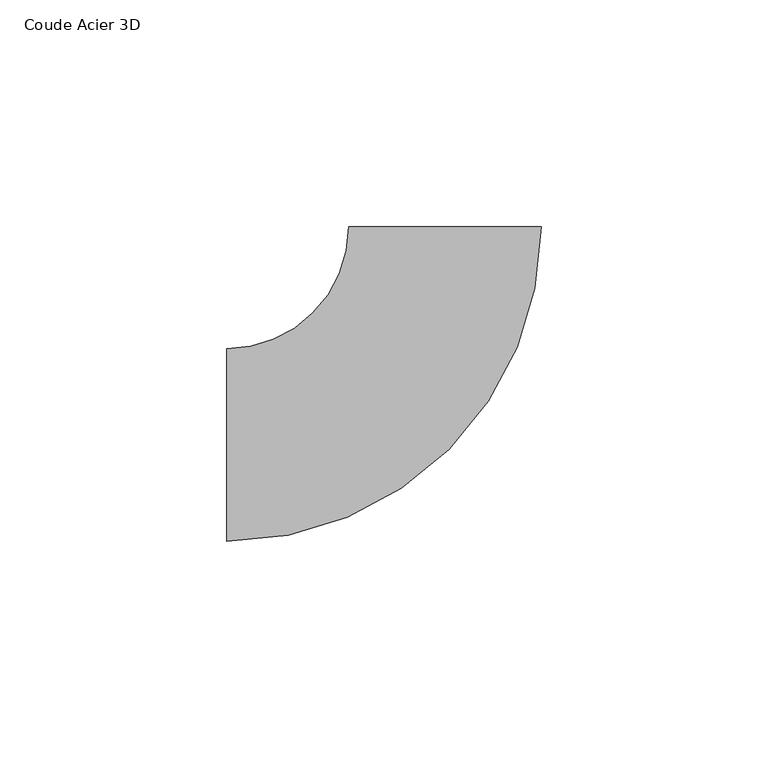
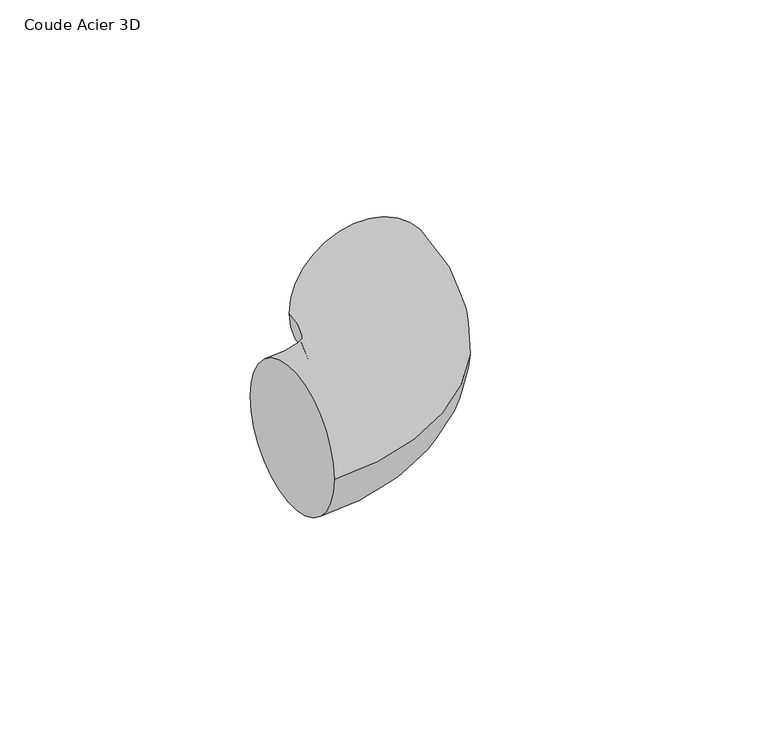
"""IFC4 building model written with IfcOpenShell, lengths in millimetres: pipe fitting geometry, Coude Acier 3D : Courbure = 3D."""

from ifc_helpers import new_model, si_unit, point, frame, origin, place, context, project, spatial, circle_curve, ellipse_curve, trimmed, source, transform, mapped, element, save
from ifc_brep_helpers import plane_surface, revolved_surface, advanced_brep


def coude_acier_3d_b5d1311c(model_context):
    return source(origin(), model_context, "Body", "AdvancedBrep", [
        advanced_brep(
        [(-48.0, -21.2, 0.0), (-48.0, 21.2, 0.0), (21.2, 48.0, 0.0), (-21.2, 48.0, 0.0)],
        [
            (0, 1, circle_curve(frame((-48.0, 0.0, 0.0), z_axis=(-1.0, 0.0, 0.0), x_axis=(0.0, 1.0, 0.0)), 21.2)),
            (1, 0, circle_curve(frame((-48.0, 0.0, 0.0), z_axis=(-1.0, 0.0, 0.0), x_axis=(0.0, 1.0, 0.0)), 21.2)),
            (2, 3, circle_curve(frame((0.0, 48.0, 0.0), z_axis=(0.0, 1.0, 0.0), x_axis=(-1.0, 0.0, 0.0)), 21.2)),
            (3, 2, circle_curve(frame((0.0, 48.0, 0.0), z_axis=(0.0, 1.0, 0.0), x_axis=(-1.0, 0.0, 0.0)), 21.2)),
            (3, 1, circle_curve(frame((-48.0, 48.0, 0.0), z_axis=(0.0, 0.0, -1.0), x_axis=(0.0, -1.0, 0.0)), 26.8)),
            (0, 2, circle_curve(frame((-48.0, 48.0, 0.0), z_axis=(0.0, 0.0, 1.0), x_axis=(0.0, -1.0, 0.0)), 69.2)),
        ],
        [
            plane_surface(frame((-48.0, 0.0, 0.0), z_axis=(-1.0, 0.0, 0.0), x_axis=(0.0, 0.0, 1.0))),
            plane_surface(frame((0.0, 48.0, 0.0), z_axis=(0.0, 1.0, 0.0), x_axis=(0.0, 0.0, 1.0))),
            revolved_surface(trimmed(ellipse_curve(frame((-48.0, 0.0, 0.0), z_axis=(-1.0, 0.0, 0.0), x_axis=(0.0, 1.0, 0.0)), 21.2, 21.2), [point((-48.0, -21.2, 0.0))], [point((-48.0, 21.2, 0.0))], True, "CARTESIAN"), (-48.0, 48.0, 0.0), (0.0, 0.0, 1.0)),
            revolved_surface(trimmed(ellipse_curve(frame((-48.0, 0.0, 0.0), z_axis=(-1.0, 0.0, 0.0), x_axis=(0.0, 1.0, 0.0)), 21.2, 21.2), [point((-48.0, 21.2, 0.0))], [point((-48.0, -21.2, 0.0))], True, "CARTESIAN"), (-48.0, 48.0, 0.0), (0.0, 0.0, 1.0)),
        ],
        [
            (0, [[1, 2]]),
            (1, [[3, 4]]),
            (2, [[5, -1, 6, -4]]),
            (3, [[-6, -2, -5, -3]]),
        ],
    ),
    ])


if __name__ == "__main__":
    model = new_model("IFC4")
    model_context = context("Model", 3, world=origin())
    ifc_project = project(units=[si_unit("LENGTHUNIT", "METRE", prefix="MILLI")], contexts=[model_context])
    site = spatial("IfcSite", under=ifc_project)
    building = spatial("IfcBuilding", under=site)
    placement = place(None, origin())
    coude_acier_3d_shape = coude_acier_3d_b5d1311c(model_context)
    element("IfcPipeFitting", 1, ObjectType="Coude Acier 3D : Courbure = 3D", at=placement, inside=building, context=model_context, shape_type="MappedRepresentation", body=[
        mapped(coude_acier_3d_shape, transform((0.0, 0.0, 0.0), x_axis=(1.0, 0.0, 0.0), y_axis=(0.0, 1.0, 0.0), z_axis=(0.0, 0.0, 1.0))),
    ])
    save(model, "model.ifc")
